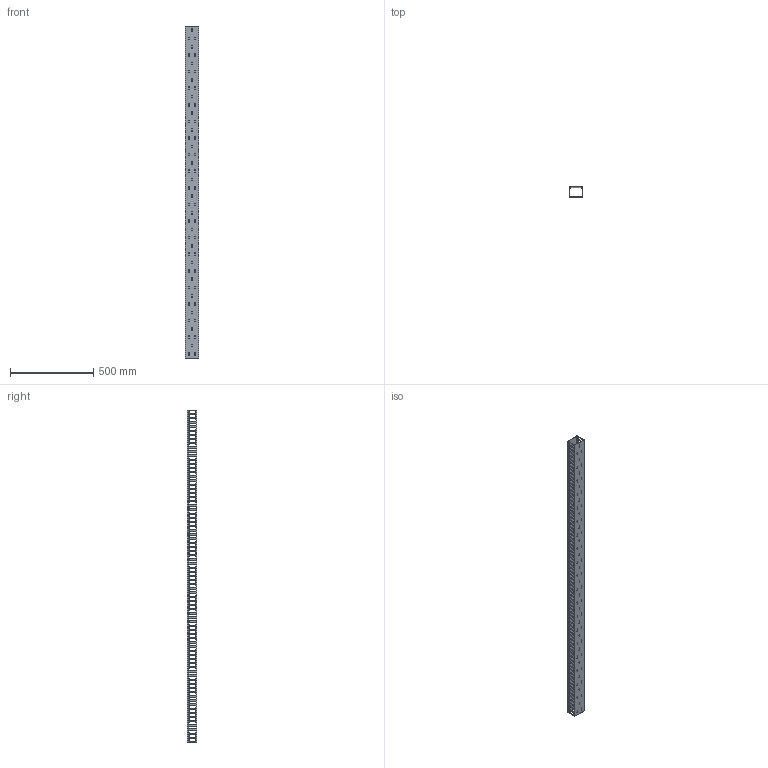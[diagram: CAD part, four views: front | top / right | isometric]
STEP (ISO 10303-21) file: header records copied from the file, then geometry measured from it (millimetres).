
FILE_DESCRIPTION (( 'STEP AP214' ), '1' );
FILE_NAME ('KD-86-20-LL.STEP', '2020-02-19T00:59:26', ( '' ), ( '' ), 'SwSTEP 2.0', 'SolidWorks 2018', '' );
FILE_SCHEMA (( 'AUTOMOTIVE_DESIGN' ));
Length unit declared in the file: millimetre
Products named in the file (3): KD-86-20-cover; KD-86-20-LL; KD-86-20-LL-body
Assembly tree (2 placements, depth 2):
  KD-86-20-LL
    KD-86-20-LL-body
    KD-86-20-cover
Bounding box: 80 x 60.17 x 2000 mm (x, y, z)
Volume: 837335.9 mm3; surface area: 1060009.1 mm2
Topology: 2 solids, 2 shells, 1583 faces, 4737 edges, 3158 vertices
Faces by surface type: cylinder 797, plane 786
Entity records: 54735 total; most frequent: DIRECTION 9507, CARTESIAN_POINT 9483, ORIENTED_EDGE 9474, EDGE_CURVE 4737, AXIS2_PLACEMENT_3D 3182, VERTEX_POINT 3158, VECTOR 3143, LINE 3143
